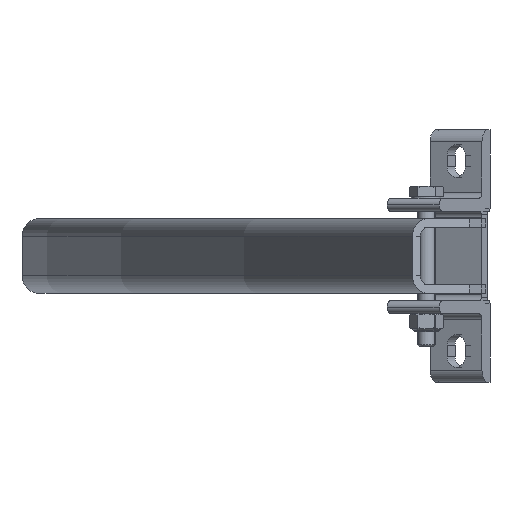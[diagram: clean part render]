
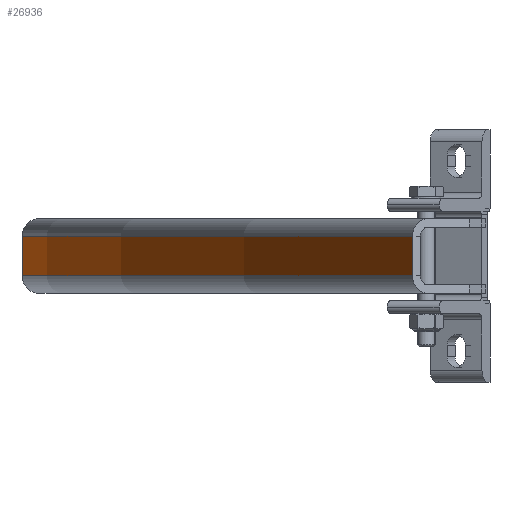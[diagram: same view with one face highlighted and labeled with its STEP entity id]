
A CAD part, front view. The second image highlights one B-rep face of the part: STEP entity #26936.
In plain terms, the highlighted cylindrical face has radius 1026 mm (diameter 2052 mm), a partial arc.
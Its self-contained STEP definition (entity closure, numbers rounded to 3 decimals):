
#103 = CARTESIAN_POINT ( 'NONE',  ( 6.625, 131.476, 502.497 ) ) ;
#1061 = EDGE_CURVE ( 'NONE', #14966, #11231, #11644, .T. ) ;
#1828 = AXIS2_PLACEMENT_3D ( 'NONE', #11346, #21027, #7932 ) ;
#1880 = CARTESIAN_POINT ( 'NONE',  ( -6.625, 131.476, -502.497 ) ) ;
#2025 = FACE_OUTER_BOUND ( 'NONE', #6646, .T. ) ;
#3535 = CARTESIAN_POINT ( 'NONE',  ( -6.625, 131.476, 502.497 ) ) ;
#3978 = CARTESIAN_POINT ( 'NONE',  ( -12.625, 131.476, -502.497 ) ) ;
#6646 = EDGE_LOOP ( 'NONE', ( #17250, #28670, #20036, #22126 ) ) ;
#6654 = AXIS2_PLACEMENT_3D ( 'NONE', #27123, #10242, #17943 ) ;
#7132 = EDGE_CURVE ( 'NONE', #14966, #20657, #15424, .T. ) ;
#7932 = DIRECTION ( 'NONE',  ( 0., 0., -1. ) ) ;
#10242 = DIRECTION ( 'NONE',  ( -1., 0., 0. ) ) ;
#11088 = DIRECTION ( 'NONE',  ( 0., 0., 1. ) ) ;
#11231 = VERTEX_POINT ( 'NONE', #1880 ) ;
#11346 = CARTESIAN_POINT ( 'NONE',  ( 6.625, 1026., 0. ) ) ;
#11644 = CIRCLE ( 'NONE', #14768, 1026. ) ;
#11753 = VECTOR ( 'NONE', #14114, 1000. ) ;
#14114 = DIRECTION ( 'NONE',  ( 1., 0., 0. ) ) ;
#14768 = AXIS2_PLACEMENT_3D ( 'NONE', #24147, #18779, #11088 ) ;
#14966 = VERTEX_POINT ( 'NONE', #3535 ) ;
#15344 = EDGE_CURVE ( 'NONE', #25522, #20657, #22750, .T. ) ;
#15424 = LINE ( 'NONE', #22689, #22444 ) ;
#17012 = LINE ( 'NONE', #3978, #11753 ) ;
#17250 = ORIENTED_EDGE ( 'NONE', *, *, #7132, .F. ) ;
#17943 = DIRECTION ( 'NONE',  ( 0., 0., 1. ) ) ;
#18779 = DIRECTION ( 'NONE',  ( 1., 0., 0. ) ) ;
#20036 = ORIENTED_EDGE ( 'NONE', *, *, #24800, .T. ) ;
#20657 = VERTEX_POINT ( 'NONE', #103 ) ;
#21027 = DIRECTION ( 'NONE',  ( -1., 0., 0. ) ) ;
#22126 = ORIENTED_EDGE ( 'NONE', *, *, #15344, .T. ) ;
#22195 = DIRECTION ( 'NONE',  ( 1., 0., 0. ) ) ;
#22444 = VECTOR ( 'NONE', #22195, 1000. ) ;
#22689 = CARTESIAN_POINT ( 'NONE',  ( -12.625, 131.476, 502.497 ) ) ;
#22750 = CIRCLE ( 'NONE', #1828, 1026. ) ;
#24147 = CARTESIAN_POINT ( 'NONE',  ( -6.625, 1026., 0. ) ) ;
#24800 = EDGE_CURVE ( 'NONE', #11231, #25522, #17012, .T. ) ;
#25202 = CYLINDRICAL_SURFACE ( 'NONE', #6654, 1026. ) ;
#25522 = VERTEX_POINT ( 'NONE', #27457 ) ;
#26936 = ADVANCED_FACE ( 'NONE', ( #2025 ), #25202, .T. ) ;
#27123 = CARTESIAN_POINT ( 'NONE',  ( -12.625, 1026., 0. ) ) ;
#27457 = CARTESIAN_POINT ( 'NONE',  ( 6.625, 131.476, -502.497 ) ) ;
#28670 = ORIENTED_EDGE ( 'NONE', *, *, #1061, .T. ) ;
